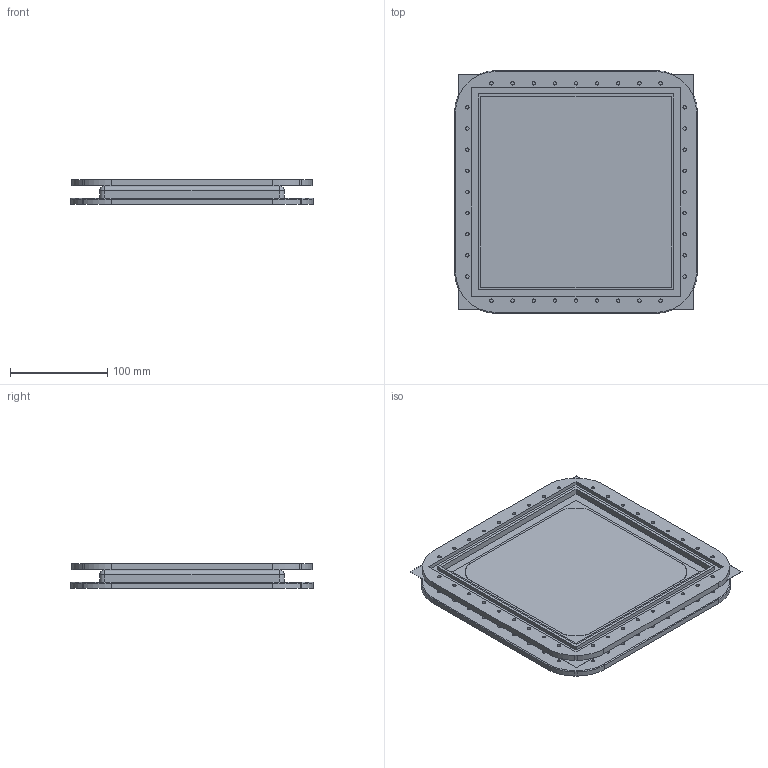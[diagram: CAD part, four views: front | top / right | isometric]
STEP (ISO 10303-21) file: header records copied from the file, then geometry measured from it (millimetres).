
FILE_DESCRIPTION(/* description */ (''),/* implementation_level */ '2;1');
FILE_NAME(/* name */ 'VAT_ASSM.stp',/* time_stamp */ '2016-01-20T17:03:03-05:00',/* author */ (''),/* organization */ (''),/* preprocessor_version */ 'ST-DEVELOPER v11',/* originating_system */ 'SIEMENS PLM Software NX 7.5',/* authorisation */ '');
FILE_SCHEMA (('AUTOMOTIVE_DESIGN { 1 0 10303 214 1 1 1 1 }'));
Length unit declared in the file: millimetre
Products named in the file (6): Base; 3D_Riser; FEP_FILM; Top_Clamp; Vat_Wall; VAT_ASSM
Assembly tree (5 placements, depth 2):
  VAT_ASSM
    Vat_Wall
    Top_Clamp
    FEP_FILM
    3D_Riser
    Base
Bounding box: 250 x 250 x 25.53 mm (x, y, z)
Volume: 391189.5 mm3; surface area: 282798.7 mm2
Topology: 4 solids, 4 shells, 222 faces, 624 edges, 412 vertices
Faces by surface type: cylinder 136, plane 66, torus 16, sphere 4
Full cylindrical faces by diameter (mm): 3.5 x76, 4.5 x4
Entity records: 6954 total; most frequent: DIRECTION 1244, CARTESIAN_POINT 1100, ORIENTED_EDGE 1000, AXIS2_PLACEMENT_3D 516, EDGE_CURVE 500, EDGE_LOOP 466, VERTEX_POINT 372, FACE_BOUND 332
